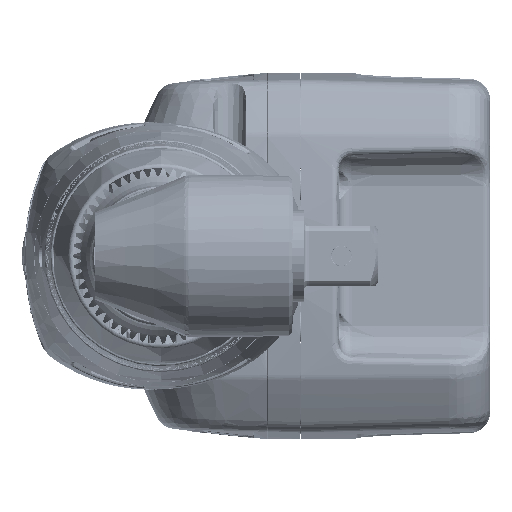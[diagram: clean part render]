
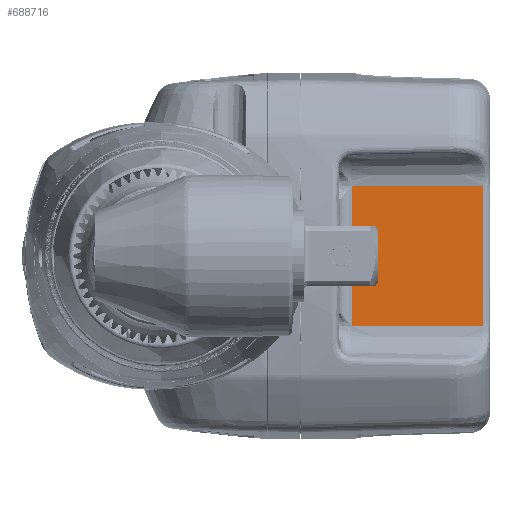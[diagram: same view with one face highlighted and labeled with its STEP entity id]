
A CAD part, left-side view. The second image highlights one B-rep face of the part: STEP entity #688716.
In plain terms, the highlighted planar face has unit normal (-1, -0.026, 0) as drawn and (0, -0.026, 1) by its records, which use the part's own axes.
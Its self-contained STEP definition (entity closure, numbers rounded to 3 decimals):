
#665202=DIRECTION('',(-1.,0.,0.));
#665203=VECTOR('',#665202,0.423);
#665204=CARTESIAN_POINT('',(-14.577,-38.789,
51.444));
#665205=LINE('',#665204,#665203);
#665238=DIRECTION('',(-1.,0.,0.));
#665239=VECTOR('',#665238,30.);
#665240=CARTESIAN_POINT('',(15.,-10.921,
52.173));
#665241=LINE('',#665240,#665239);
#666859=DIRECTION('',(1.,0.,0.));
#666860=VECTOR('',#666859,0.423);
#666861=CARTESIAN_POINT('',(14.577,-38.789,
51.444));
#666862=LINE('',#666861,#666860);
#666942=DIRECTION('',(0.,1.,0.026));
#666943=VECTOR('',#666942,27.877);
#666944=CARTESIAN_POINT('',(15.,-38.789,
51.444));
#666945=LINE('',#666944,#666943);
#667390=DIRECTION('',(0.,-1.,
-0.026));
#667391=VECTOR('',#667390,27.877);
#667392=CARTESIAN_POINT('',(-15.,-10.921,
52.173));
#667393=LINE('',#667392,#667391);
#667674=DIRECTION('',(1.,0.,0.));
#667675=VECTOR('',#667674,29.154);
#667676=CARTESIAN_POINT('',(-14.577,-38.789,
51.444));
#667677=LINE('',#667676,#667675);
#686383=CARTESIAN_POINT('',(-14.577,-38.789,
51.444));
#686384=CARTESIAN_POINT('',(-15.,-38.789,
51.444));
#686385=VERTEX_POINT('',#686383);
#686386=VERTEX_POINT('',#686384);
#686387=CARTESIAN_POINT('',(-15.,-10.921,
52.173));
#686388=VERTEX_POINT('',#686387);
#686389=CARTESIAN_POINT('',(15.,-38.789,
51.444));
#686390=CARTESIAN_POINT('',(15.,-10.921,
52.173));
#686391=VERTEX_POINT('',#686389);
#686392=VERTEX_POINT('',#686390);
#686393=CARTESIAN_POINT('',(14.577,-38.789,
51.444));
#686394=VERTEX_POINT('',#686393);
#688698=CARTESIAN_POINT('',(-399999.654,-8.,52.25));
#688699=DIRECTION('',(0.,0.026,-1.));
#688700=DIRECTION('',(0.,-1.,-0.026));
#688701=AXIS2_PLACEMENT_3D('',#688698,#688699,#688700);
#688702=PLANE('',#688701);
#688704=ORIENTED_EDGE('',*,*,#688703,.F.);
#688706=ORIENTED_EDGE('',*,*,#688705,.F.);
#688708=ORIENTED_EDGE('',*,*,#688707,.F.);
#688710=ORIENTED_EDGE('',*,*,#688709,.F.);
#688711=ORIENTED_EDGE('',*,*,#688688,.T.);
#688713=ORIENTED_EDGE('',*,*,#688712,.F.);
#688714=EDGE_LOOP('',(#688704,#688706,#688708,#688710,#688711,#688713));
#688715=FACE_OUTER_BOUND('',#688714,.F.);
#688716=ADVANCED_FACE('',(#688715),#688702,.F.);
#688688=EDGE_CURVE('',#686385,#686386,#665205,.T.);
#688703=EDGE_CURVE('',#686392,#686388,#665241,.T.);
#688705=EDGE_CURVE('',#686391,#686392,#666945,.T.);
#688707=EDGE_CURVE('',#686394,#686391,#666862,.T.);
#688709=EDGE_CURVE('',#686385,#686394,#667677,.T.);
#688712=EDGE_CURVE('',#686388,#686386,#667393,.T.);
